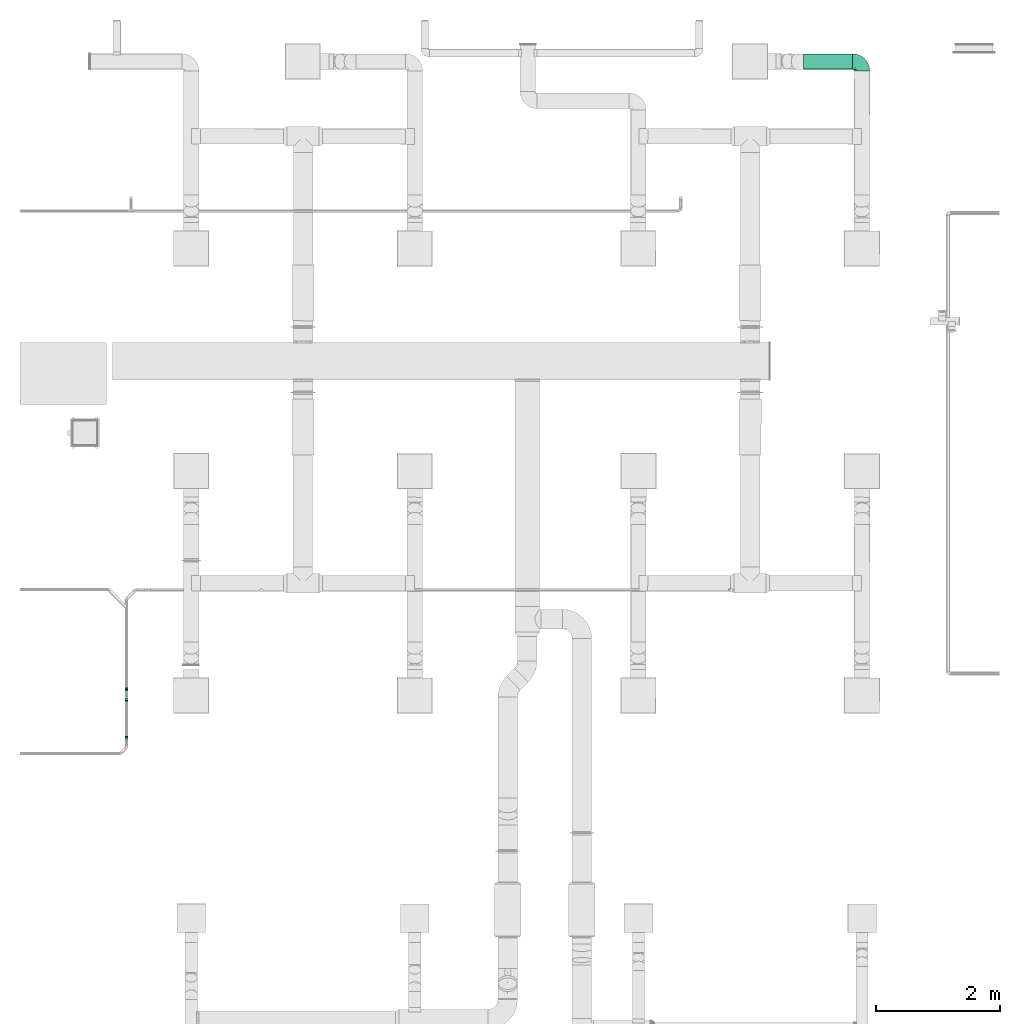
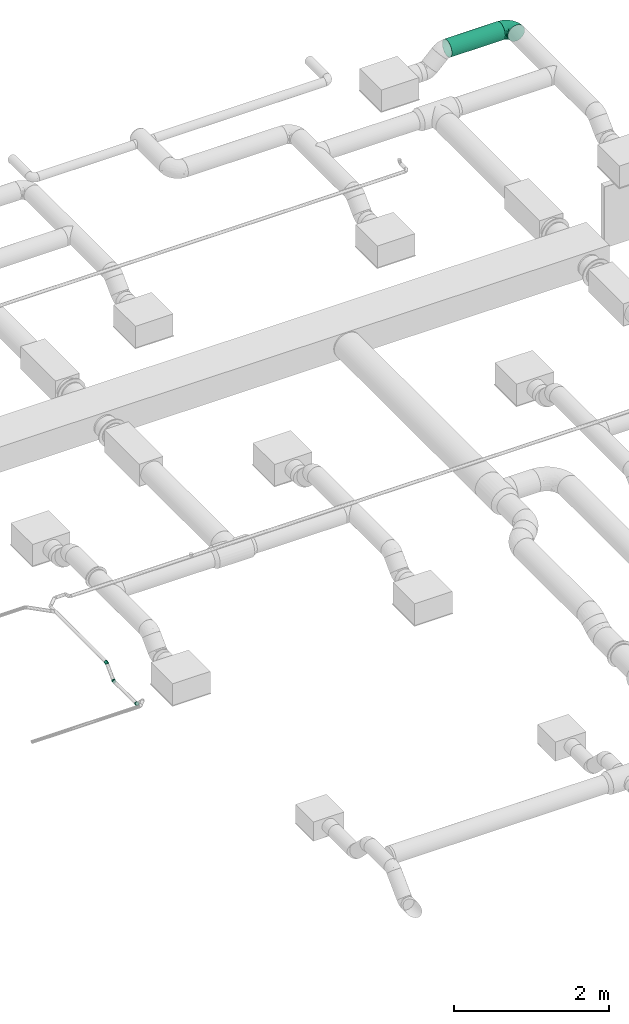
# One storey, part 49 of 63: 4 flow fittings, 1 flow segment.
"""IFC2X3 building model written with IfcOpenShell, lengths in millimetres."""

from ifc_helpers import new_model, entity, si_unit, converted_unit, derived_unit, direction, frame, origin_with_axes, origin_2d_with_axis, place, context, subcontext, project, spatial, hollow_circle, extrude, open_shell, surface_model, source, transform, mapped, type_object, element, save


model = new_model("IFC2X3")

# Units and contexts
model_context = context("Model", 3, precision=0.01, world=frame((0.0, 4.29681676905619e-09, 0.0)), true_north=direction((4.01073788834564e-13, 1.0)))
plan_context = context("Plan", 3, precision=0.01, world=frame((0.0, 4.29681676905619e-09, 0.0)), true_north=direction((4.01073788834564e-13, 1.0)))
body_context = subcontext(model_context, "Body", "Model", "MODEL_VIEW")
ifc_project = project(units=[converted_unit("PLANEANGLEUNIT", "DEGREE", entity("IfcPositiveLengthMeasure", 0.0174532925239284), si_unit("PLANEANGLEUNIT", "RADIAN"), dimensions=[0, 0, 0, 0, 0, 0, 0]), si_unit("AREAUNIT", "SQUARE_METRE"), si_unit("LENGTHUNIT", "METRE", prefix="MILLI"), si_unit("MASSUNIT", "GRAM", prefix="KILO"), si_unit("POWERUNIT", "WATT"), si_unit("PRESSUREUNIT", "PASCAL"), si_unit("FORCEUNIT", "NEWTON", prefix="KILO"), si_unit("ELECTRICVOLTAGEUNIT", "VOLT"), si_unit("ELECTRICCURRENTUNIT", "AMPERE"), si_unit("THERMODYNAMICTEMPERATUREUNIT", "DEGREE_CELSIUS"), si_unit("TIMEUNIT", "SECOND"), si_unit("VOLUMEUNIT", "CUBIC_METRE"), derived_unit("LINEARVELOCITYUNIT", [(si_unit("LENGTHUNIT", "METRE"), 1), (si_unit("TIMEUNIT", "SECOND"), -1)]), derived_unit("VOLUMETRICFLOWRATEUNIT", [(si_unit("VOLUMEUNIT", "CUBIC_METRE"), 1), (si_unit("TIMEUNIT", "SECOND"), -1)]), derived_unit("THERMALTRANSMITTANCEUNIT", [(si_unit("POWERUNIT", "WATT"), 1), (si_unit("THERMODYNAMICTEMPERATUREUNIT", "KELVIN"), -1), (si_unit("AREAUNIT", "SQUARE_METRE"), -1)]), derived_unit("SOUNDPRESSUREUNIT", [(si_unit("PRESSUREUNIT", "PASCAL"), 1)])], contexts=[model_context, plan_context])

# Site, building, storey
site_placement = place(None, frame((0.0, -4.29681676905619e-09, 0.0), z_axis=(0.0, 0.0, 1.0), x_axis=(1.0, 0.0, 0.0)))
site = spatial("IfcSite", under=ifc_project, at=site_placement, CompositionType="ELEMENT")
building_placement = place(site_placement, frame((0.0, 4.29681676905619e-09, 0.0), z_axis=(0.0, 0.0, 1.0), x_axis=(1.0, 0.0, 0.0)))
building = spatial("IfcBuilding", under=site, at=building_placement, Name="mc-building", CompositionType="ELEMENT")
storey_placement = place(building_placement, frame((0.0, 0.0, 210900.0), z_axis=(0.0, 0.0, 1.0), x_axis=(1.0, 0.0, 0.0)))
storey = spatial("IfcBuildingStorey", under=building, at=storey_placement, Name="Nivå F", CompositionType="ELEMENT", Elevation=210900.0)

# Flow fittings
duct_fitting_type_1 = type_object("IfcDuctFittingType", Name="magicirc_elbow_short_001", PredefinedType="BEND")
shared_shape_1 = source(origin_with_axes(), body_context, "Body", "SurfaceModel", [
    surface_model("IfcShellBasedSurfaceModel", [(-150.0972, 0.0, -125.0), (-150.0972, -32.35238, -120.74073), (-150.0972, 32.35238, -120.74073), (-150.0972, 62.5, -108.25318), (-150.0972, 88.38835, -88.38835), (-150.0972, 108.25318, -62.5), (-150.0972, 120.74073, -32.35238), (-150.0972, -62.5, -108.25318), (-150.0972, -88.38835, -88.38835), (-150.0972, -125.0, 0.0), (-150.0972, -108.25318, -62.5), (-150.0972, -120.74073, -32.35238), (-150.0972, 125.0, 0.0), (-150.0972, -120.74073, 32.35238), (-150.0972, 120.74073, 32.35238), (-150.0972, 108.25318, 62.5), (-150.0972, 32.35238, 120.74073), (-150.0972, 62.5, 108.25318), (-150.0972, 88.38835, 88.38835), (-150.0972, -88.38835, 88.38835), (-150.0972, -108.25318, 62.5), (-150.0972, -32.35238, 120.74073), (-150.0972, 0.0, 125.0), (-150.0972, -62.5, 108.25318), (-32.4496, 150.0762, -120.74073), (88.2911, 150.15442, -88.38835), (-0.09722, 150.09716, -125.0), (-108.35038, 150.02704, -62.5), (-62.59721, 150.05667, -108.25318), (124.90275, 150.17813, 0.0), (-88.48555, 150.03991, -88.38835), (120.64348, 150.17537, 32.35238), (32.25515, 150.11812, -120.74073), (62.40276, 150.13765, -108.25318), (108.15593, 150.16728, -62.5), (120.64348, 150.17537, -32.35238), (-120.83793, 150.01895, -32.35238), (-125.0972, 150.0162, 0.0), (-120.83793, 150.01895, 32.35238), (-108.35038, 150.02704, 62.5), (-32.4496, 150.0762, 120.74073), (-88.48555, 150.03991, 88.38835), (-62.59721, 150.05667, 108.25318), (88.2911, 150.15442, 88.38835), (108.15593, 150.16728, 62.5), (62.40276, 150.13765, 108.25318), (-0.09722, 150.09716, 125.0), (32.25515, 150.11812, 120.74073), (24.48072, -24.61637, 78.94283), (-18.52637, -48.37994, 88.73025), (-8.04173, -60.9188, 68.90086), (-112.00358, -117.21453, 35.2862), (-119.04777, -121.94063, 0.0), (25.80274, 108.66495, 121.17359), (-75.90531, -90.32019, 72.94064), (-74.9755, -74.03393, 90.43499), (-106.27674, -83.08286, 89.59373), (-96.42552, -119.71161, 0.0), (-46.55642, 70.62769, 123.46382), (-76.17207, 76.12274, 116.42958), (-69.46241, 48.90508, 123.27651), (-124.59383, -102.85946, 69.13302), (78.61878, -2.68923, 0.0), (85.73849, 13.68132, 25.36666), (70.44199, -10.83075, 22.52189), (-124.87871, -54.07109, 111.94212), (-90.75665, -57.43818, 106.30507), (32.35431, -52.80826, 23.34963), (38.12723, -38.91422, 44.84757), (14.54114, -56.22264, 51.53596), (-95.77227, 131.6642, 83.8949), (-69.85156, 120.82358, 107.00431), (-67.1605, -108.39565, 29.86687), (-70.62181, -111.88072, 0.0), (-44.81811, -104.04983, 0.0), (-59.79111, 94.89723, 116.92077), (-108.64824, -25.87311, 121.1736), (53.99019, 124.9137, 111.94211), (-27.08036, -92.21892, 28.67154), (-115.10022, 7.31748, 124.96185), (9.98579, -70.13676, 26.36082), (23.58015, -61.5042, 0.0), (-29.57142, 7.33727, 119.47275), (-3.48723, -9.53981, 105.7338), (0.94046, 29.15476, 117.21203), (-136.17743, 114.55328, 55.67167), (-123.52228, 95.73345, 87.18474), (-119.15531, 119.07815, 65.83858), (-129.1793, 129.09564, 33.50057), (-137.59252, 128.35207, 0.0), (-121.50333, 69.81401, 106.85083), (-150.0972, 47.42619, 114.49695), (-128.73123, 33.72402, 120.89336), (-13.90256, -76.68971, 50.24663), (103.22985, 91.02413, 59.18345), (90.69766, 74.73169, 71.85315), (96.39576, 49.19099, 45.79181), (-41.19981, 38.30606, 124.8562), (102.77873, 124.66042, 69.13302), (83.014, 106.33053, 89.59373), (-94.09097, 107.97077, 96.06562), (74.91185, 76.58283, 90.06078), (117.14196, 112.07948, 35.2862), (121.86349, 119.12673, 0.0), (-47.41201, -61.19145, 91.80701), (78.85203, 48.15754, 74.22228), (77.05047, 15.93856, 51.80745), (-101.95839, 84.01726, 104.67527), (110.12903, 71.6119, 28.20498), (111.83495, 70.69427, 0.0), (55.50699, 7.45822, 74.75617), (58.16966, -16.80975, 44.43797), (57.37939, 90.79383, 106.30507), (29.9943, 57.40202, 113.43928), (-128.44116, 137.50935, 0.0), (-74.06924, 6.60335, 124.3929), (-33.60209, 127.73099, 120.99306), (-7.2693, 114.2011, 124.96966), (-18.48364, 93.2743, 124.82125), (14.95293, 81.80631, 121.68816), (-109.79492, 132.74994, 65.99086), (-81.60587, -16.36229, 121.36892), (-56.56582, -29.69215, 113.40491), (55.17991, 45.05306, 95.58745), (-54.92296, -96.11384, 51.55022), (-90.95726, -103.28879, 59.18345), (-48.10646, -78.8832, 74.22228), (-26.52317, -29.67388, 104.84215), (-7.24826, 68.85145, 124.1806), (30.73318, 15.67993, 99.80541), (-47.5234, 150.06644, 114.49695), (-107.9819, 38.91719, 121.04325), (-96.21486, 61.68203, 116.01189), (-96.40875, 19.14807, 124.70641), (91.31978, 21.09813, 0.0), (104.02078, 44.8855, 0.0), (98.9339, 37.85964, 21.62483), (119.64912, 96.50304, 0.0), (-21.03898, -91.33342, 0.0), (52.37395, -32.97385, 22.82054), (61.51946, -23.54031, 0.0), (2.74016, -78.61702, 0.0), (44.42014, -44.39138, 0.0), (-38.91182, 106.03196, 121.2378), (-120.86881, 69.77328, -107.00431), (53.99019, 124.9137, -111.94212), (-90.75665, -57.43818, -106.30507), (-124.87871, -54.07109, -111.94212), (-108.64824, -25.87311, -121.1736), (-18.52638, -48.37994, -88.73025), (-8.03696, -60.91434, -68.90243), (-47.40948, -61.19216, -91.80541), (-96.40875, 19.14807, -124.70641), (-74.06924, 6.60335, -124.39289), (-115.10022, 7.31748, -124.96185), (14.95293, 81.80632, -121.68816), (25.80274, 108.66496, -121.17359), (29.9943, 57.40204, -113.43928), (-129.1793, 129.09564, -33.50057), (-95.81344, 123.46023, -87.18474), (-84.08329, 101.90395, -104.67527), (-108.0317, 94.02101, -96.06562), (32.25687, -52.81312, -23.671), (-131.72621, 95.68696, -83.8949), (-132.82104, 109.70891, -65.99086), (-107.9819, 38.91719, -121.04325), (-128.73123, 33.72402, -120.89336), (-119.15531, 119.07815, -65.83858), (-112.00358, -117.21453, -35.2862), (-48.13899, 68.74808, -123.44965), (-7.24825, 68.85145, -124.1806), (-41.1998, 38.30605, -124.8562), (-76.17207, 76.12273, -116.42958), (-69.73196, 48.70616, -123.27446), (-95.4407, 59.83965, -116.78539), (-106.27674, -83.08286, -89.59373), (-3.48723, -9.53981, -105.7338), (24.48071, -24.61638, -78.94283), (-54.96876, -96.13781, -51.5373), (-75.90865, -90.31901, -72.94357), (-48.10646, -78.8832, -74.22228), (-124.59383, -102.85946, -69.13302), (30.73321, 15.67994, -99.8054), (0.94047, 29.15476, -117.21203), (-69.8927, 121.45808, -106.85084), (9.98579, -70.13676, -26.36082), (-27.10304, -92.21056, -28.74666), (78.85202, 48.15754, -74.22228), (96.06185, 52.26961, -49.3405), (80.70715, 17.60403, -46.36915), (38.10426, -38.85096, -45.00602), (58.16966, -16.80975, -44.43797), (-114.64147, 136.10321, -55.67167), (117.14196, 112.07948, -35.2862), (-7.26929, 114.20109, -124.96966), (14.54114, -56.22264, -51.53596), (-33.60209, 127.73099, -120.99306), (-47.5234, 150.06644, -114.49695), (70.34745, -10.98779, -22.43325), (52.24644, -33.0901, -22.90982), (83.014, 106.33053, -89.59373), (102.77873, 124.66042, -69.13302), (98.79163, 38.49279, -23.73425), (57.37938, 90.79383, -106.30507), (-67.1605, -108.39565, -29.86687), (89.97016, 76.8113, -73.6808), (73.63523, 74.44149, -90.5745), (-29.5714, 7.33728, -119.47275), (-56.56581, -29.69215, -113.40491), (-74.97313, -74.0325, -90.43556), (-90.95726, -103.28879, -59.18345), (-81.60587, -16.36229, -121.36892), (-26.52317, -29.67387, -104.84215), (103.22985, 91.02413, -59.18345), (-18.48364, 93.27429, -124.82125), (-38.91182, 106.03195, -121.2378), (55.17991, 45.0531, -95.58746), (-150.0972, 47.42619, -114.49695), (59.07403, 10.32862, -72.93382), (-61.74434, 96.17487, -116.01189), (109.61114, 70.30666, -28.70043), (-13.85205, -76.66939, -50.22706), (86.00494, 12.83, -21.95696)], [open_shell([[[0, 1, 2]], [[3, 2, 4]], [[1, 5, 2]], [[4, 2, 5]], [[5, 1, 6]], [[7, 8, 1]], [[9, 1, 8]], [[10, 11, 8]], [[9, 8, 11]], [[9, 6, 1]], [[9, 12, 6]], [[12, 13, 14]], [[15, 14, 16]], [[16, 17, 18]], [[15, 16, 18]], [[16, 14, 19]], [[20, 19, 13]], [[19, 14, 13]], [[21, 22, 23]], [[19, 23, 22]], [[19, 22, 16]], [[9, 13, 12]], [[24, 25, 26]], [[27, 24, 28]], [[29, 24, 27]], [[27, 28, 30]], [[31, 29, 27]], [[32, 25, 33]], [[32, 26, 25]], [[34, 29, 35]], [[29, 34, 25]], [[24, 29, 25]], [[27, 36, 31]], [[37, 38, 39]], [[37, 39, 40]], [[41, 42, 40]], [[41, 40, 39]], [[40, 43, 36]], [[31, 43, 44]], [[36, 43, 31]], [[45, 46, 47]], [[46, 45, 43]], [[40, 46, 43]], [[36, 37, 40]], [[48, 49, 50]], [[51, 13, 52]], [[53, 47, 46]], [[54, 55, 56]], [[52, 57, 51]], [[58, 59, 60]], [[20, 61, 19]], [[62, 63, 64]], [[65, 56, 66]], [[67, 68, 69]], [[41, 70, 71]], [[72, 73, 74]], [[59, 58, 75]], [[21, 76, 22]], [[77, 45, 47]], [[23, 19, 56]], [[72, 74, 78]], [[79, 16, 22]], [[76, 21, 65]], [[80, 81, 67]], [[82, 83, 84]], [[85, 86, 87]], [[88, 12, 14]], [[12, 88, 89]], [[18, 17, 90]], [[51, 20, 13]], [[18, 90, 86]], [[17, 91, 92]], [[85, 14, 15]], [[92, 91, 16]], [[80, 93, 78]], [[39, 70, 41]], [[94, 95, 96]], [[84, 97, 82]], [[44, 43, 98]], [[99, 43, 45]], [[87, 86, 100]], [[101, 95, 99]], [[102, 103, 31]], [[66, 55, 104]], [[77, 99, 45]], [[102, 31, 44]], [[96, 105, 106]], [[86, 15, 18]], [[107, 86, 90]], [[86, 85, 15]], [[102, 108, 109]], [[110, 48, 111]], [[112, 53, 113]], [[89, 88, 114]], [[60, 115, 97]], [[114, 88, 37]], [[86, 107, 100]], [[38, 37, 88]], [[71, 116, 42]], [[117, 118, 119]], [[120, 38, 88]], [[70, 120, 100]], [[121, 76, 122]], [[112, 113, 123]], [[117, 53, 46]], [[42, 41, 71]], [[77, 53, 112]], [[72, 78, 124]], [[54, 125, 124]], [[21, 23, 65]], [[122, 76, 66]], [[61, 56, 19]], [[76, 121, 79]], [[126, 104, 55]], [[122, 127, 82]], [[101, 99, 112]], [[98, 99, 94]], [[46, 40, 117]], [[113, 53, 119]], [[128, 84, 113]], [[113, 84, 129]], [[75, 100, 59]], [[116, 40, 130]], [[105, 110, 106]], [[123, 110, 105]], [[131, 90, 17]], [[107, 132, 59]], [[117, 40, 116]], [[117, 116, 118]], [[51, 57, 73]], [[61, 51, 125]], [[98, 102, 44]], [[108, 94, 96]], [[76, 79, 22]], [[133, 79, 115]], [[84, 128, 97]], [[129, 84, 83]], [[128, 118, 58]], [[59, 132, 60]], [[129, 83, 48]], [[123, 113, 129]], [[49, 48, 83]], [[48, 69, 68]], [[127, 49, 83]], [[126, 93, 50]], [[110, 123, 129]], [[123, 105, 101]], [[48, 110, 129]], [[110, 111, 106]], [[97, 115, 82]], [[122, 82, 115]], [[63, 96, 106]], [[134, 135, 136]], [[63, 62, 134]], [[96, 136, 108]], [[109, 137, 102]], [[102, 94, 108]], [[78, 74, 138]], [[73, 72, 51]], [[51, 72, 125]], [[68, 67, 139]], [[72, 124, 125]], [[93, 124, 78]], [[54, 124, 126]], [[64, 63, 106]], [[63, 134, 136]], [[64, 106, 111]], [[108, 136, 135]], [[63, 136, 96]], [[139, 64, 111]], [[139, 140, 64]], [[111, 68, 139]], [[80, 141, 81]], [[80, 78, 141]], [[139, 67, 142]], [[80, 69, 93]], [[50, 93, 69]], [[124, 93, 126]], [[48, 68, 111]], [[67, 69, 80]], [[140, 139, 142]], [[140, 62, 64]], [[142, 67, 81]], [[55, 54, 126]], [[56, 125, 54]], [[126, 50, 104]], [[56, 55, 66]], [[127, 104, 49]], [[66, 104, 122]], [[48, 50, 69]], [[50, 49, 104]], [[132, 107, 90]], [[100, 107, 59]], [[90, 131, 132]], [[60, 97, 58]], [[132, 131, 60]], [[60, 131, 133]], [[128, 58, 97]], [[75, 58, 143]], [[143, 71, 75]], [[100, 75, 71]], [[120, 70, 39]], [[71, 70, 100]], [[38, 120, 39]], [[100, 120, 87]], [[85, 88, 14]], [[120, 88, 87]], [[13, 9, 52]], [[103, 102, 137]], [[103, 29, 31]], [[88, 85, 87]], [[51, 61, 20]], [[56, 61, 125]], [[56, 65, 23]], [[76, 65, 66]], [[99, 98, 43]], [[102, 98, 94]], [[53, 77, 47]], [[99, 77, 112]], [[116, 71, 143]], [[42, 116, 130]], [[116, 143, 118]], [[79, 133, 92]], [[79, 92, 16]], [[17, 92, 131]], [[122, 115, 121]], [[79, 121, 115]], [[123, 101, 112]], [[95, 101, 105]], [[96, 95, 105]], [[99, 95, 94]], [[117, 119, 53]], [[128, 113, 119]], [[58, 118, 143]], [[119, 118, 128]], [[60, 133, 115]], [[92, 133, 131]], [[82, 127, 83]], [[104, 127, 122]], [[108, 135, 109]], [[138, 141, 78]], [[4, 144, 3]], [[32, 33, 145]], [[146, 147, 148]], [[149, 150, 151]], [[152, 153, 154]], [[155, 156, 157]], [[89, 158, 12]], [[159, 160, 161]], [[158, 6, 12]], [[162, 142, 81]], [[161, 163, 164]], [[3, 165, 166]], [[167, 159, 161]], [[158, 164, 6]], [[10, 168, 11]], [[169, 170, 171]], [[168, 52, 11]], [[172, 173, 174]], [[7, 147, 175]], [[176, 177, 149]], [[178, 179, 180]], [[148, 1, 0]], [[35, 29, 103]], [[10, 8, 181]], [[182, 176, 183]], [[160, 159, 184]], [[185, 141, 186]], [[8, 7, 175]], [[187, 188, 189]], [[190, 177, 191]], [[158, 89, 114]], [[154, 148, 0]], [[37, 36, 158]], [[173, 172, 169]], [[192, 36, 27]], [[193, 34, 35]], [[4, 163, 144]], [[192, 159, 167]], [[24, 26, 194]], [[147, 7, 1]], [[154, 0, 2]], [[156, 194, 26]], [[195, 190, 162]], [[196, 197, 24]], [[198, 199, 191]], [[184, 159, 30]], [[159, 27, 30]], [[200, 33, 25]], [[34, 201, 25]], [[135, 134, 202]], [[183, 171, 170]], [[198, 191, 189]], [[32, 145, 156]], [[200, 203, 145]], [[202, 189, 188]], [[204, 74, 73]], [[103, 137, 193]], [[35, 103, 193]], [[30, 28, 184]], [[204, 178, 186]], [[32, 156, 26]], [[200, 205, 206]], [[207, 183, 176]], [[146, 148, 208]], [[179, 209, 180]], [[37, 158, 114]], [[181, 175, 210]], [[5, 163, 4]], [[208, 211, 153]], [[207, 208, 153]], [[212, 176, 149]], [[201, 200, 25]], [[205, 200, 213]], [[157, 156, 203]], [[214, 215, 196]], [[203, 206, 216]], [[183, 170, 157]], [[174, 161, 172]], [[166, 2, 217]], [[182, 177, 176]], [[189, 191, 218]], [[184, 28, 196]], [[160, 219, 172]], [[194, 156, 155]], [[28, 197, 196]], [[181, 168, 10]], [[168, 73, 57]], [[193, 109, 220]], [[201, 193, 213]], [[2, 166, 154]], [[154, 153, 211]], [[182, 183, 157]], [[183, 207, 171]], [[153, 152, 173]], [[172, 219, 169]], [[157, 216, 182]], [[216, 187, 218]], [[177, 182, 218]], [[195, 221, 150]], [[150, 177, 195]], [[209, 151, 180]], [[203, 216, 157]], [[187, 189, 218]], [[177, 218, 191]], [[182, 216, 218]], [[205, 188, 187]], [[189, 222, 198]], [[220, 188, 213]], [[135, 202, 220]], [[213, 193, 220]], [[202, 134, 222]], [[62, 222, 134]], [[220, 202, 188]], [[222, 62, 198]], [[202, 222, 189]], [[199, 140, 142]], [[140, 199, 198]], [[195, 162, 185]], [[190, 191, 199]], [[186, 141, 138]], [[185, 81, 141]], [[185, 186, 221]], [[74, 204, 186]], [[185, 221, 195]], [[178, 221, 186]], [[180, 151, 150]], [[190, 199, 162]], [[177, 190, 195]], [[198, 62, 140]], [[142, 162, 199]], [[81, 185, 162]], [[207, 176, 212]], [[153, 171, 207]], [[204, 168, 210]], [[168, 204, 73]], [[204, 210, 178]], [[179, 178, 210]], [[221, 178, 180]], [[210, 175, 179]], [[209, 175, 146]], [[175, 209, 179]], [[146, 208, 151]], [[146, 151, 209]], [[212, 151, 208]], [[180, 150, 221]], [[177, 150, 149]], [[219, 160, 184]], [[161, 160, 172]], [[184, 215, 219]], [[169, 171, 173]], [[219, 215, 169]], [[169, 215, 214]], [[153, 173, 171]], [[174, 165, 144]], [[165, 174, 173]], [[161, 174, 144]], [[164, 163, 5]], [[144, 163, 161]], [[6, 164, 5]], [[161, 164, 167]], [[192, 158, 36]], [[164, 158, 167]], [[52, 168, 57]], [[52, 9, 11]], [[159, 192, 27]], [[158, 192, 167]], [[175, 181, 8]], [[168, 181, 210]], [[148, 147, 1]], [[175, 147, 146]], [[193, 201, 34]], [[200, 201, 213]], [[200, 145, 33]], [[156, 145, 203]], [[194, 214, 196]], [[194, 196, 24]], [[196, 215, 184]], [[165, 3, 144]], [[3, 166, 217]], [[166, 165, 152]], [[208, 148, 211]], [[154, 211, 148]], [[188, 205, 213]], [[206, 205, 187]], [[216, 206, 187]], [[200, 206, 203]], [[157, 170, 155]], [[155, 170, 214]], [[155, 214, 194]], [[169, 214, 170]], [[166, 152, 154]], [[173, 152, 165]], [[151, 212, 149]], [[207, 212, 208]], [[109, 193, 137]], [[109, 135, 220]], [[138, 74, 186]]])]),
])
flow_fitting_placement = place(storey_placement, frame((534105.36782, 460995.43816, 4200.0), z_axis=(0.0, 0.0, 1.0), x_axis=(0.000647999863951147, 0.999999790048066, 0.0)))
element("IfcFlowFitting", 1, at=flow_fitting_placement, inside=storey, type_object=duct_fitting_type_1, Name="magicirc_elbow_short_001", context=body_context, shape_type="MappedRepresentation", body=[
    mapped(shared_shape_1, transform((0.0, 0.0, 0.0), scale=1.0)),
])
duct_fitting_type_2 = type_object("IfcDuctFittingType", Name="magicirc_elbow_full_radius_001", PredefinedType="BEND")
shared_shape_2 = source(origin_with_axes(), body_context, "Body", "SurfaceModel", [
    surface_model("IfcShellBasedSurfaceModel", [(-20.71068, 6.47048, -24.14815), (-20.71068, 0.0, -25.0), (-20.71068, 24.14815, -6.47048), (-20.71068, 12.5, -21.65064), (-20.71068, 21.65064, -12.5), (-20.71068, 17.67767, -17.67767), (-20.71068, -17.67767, -17.67767), (-20.71068, -12.5, -21.65064), (-20.71068, -6.47048, -24.14815), (-20.71068, -21.65064, -12.5), (-20.71068, -24.14815, -6.47048), (-20.71068, -12.5, 21.65064), (-20.71068, -25.0, 0.0), (-20.71068, -24.14815, 6.47048), (-20.71068, 24.14815, 6.47048), (-20.71068, 25.0, 0.0), (-20.71068, 6.47048, 24.14815), (-20.71068, 21.65064, 12.5), (-20.71068, 17.67767, 17.67767), (-20.71068, 12.5, 21.65064), (-20.71068, -21.65064, 12.5), (-20.71068, -17.67767, 17.67767), (-20.71068, -6.47048, 24.14815), (-20.71068, 0.0, 25.0), (-2.43066, 31.71998, -6.47048), (14.64466, 14.64466, -25.0), (10.06934, 19.21998, -24.14815), (5.80583, 23.4835, -21.65064), (2.14466, 27.14466, -17.67767), (-0.66465, 29.95397, -12.5), (31.71998, -2.43066, -6.47048), (19.21998, 10.06934, -24.14815), (27.14466, 2.14466, -17.67767), (23.4835, 5.80583, -21.65064), (29.95397, -0.66465, -12.5), (31.71998, -2.43066, 6.47048), (32.32233, -3.03301, 0.0), (-3.03301, 32.32233, 0.0), (-2.43066, 31.71998, 6.47048), (23.4835, 5.80583, 21.65064), (10.06934, 19.21998, 24.14815), (-0.66465, 29.95397, 12.5), (2.14466, 27.14466, 17.67767), (5.80583, 23.4835, 21.65064), (27.14466, 2.14466, 17.67767), (29.95397, -0.66465, 12.5), (19.21998, 10.06934, 24.14815), (14.64466, 14.64466, 25.0), (-9.90594, -9.16729, 22.84872), (-5.53086, -14.12942, 19.29098), (2.56694, -6.19714, 22.53372), (-8.0728, -19.12027, 14.63846), (19.2284, -7.81174, 14.63846), (-7.46138, -2.40706, 24.66879), (-9.60579, 10.40318, 23.37148), (-2.37784, 5.74061, 24.91215), (-12.52615, 3.46428, 24.84829), (0.74206, 15.02947, 23.33394), (4.51942, 11.83388, 24.63638), (6.36735, -15.37213, 13.93174), (13.48681, 0.5223, 22.84872), (-10.29888, 24.86369, 10.27108), (-11.02493, 20.96619, 15.77668), (-7.1013, 17.14405, 20.41013), (2.15218, -21.0168, 4.41941), (11.42886, -17.32864, 4.41941), (7.39264, -17.84741, 8.69962), (-6.36005, -22.14548, 0.0), (-7.04491, -23.31893, 4.55451), (24.09339, -9.5634, 4.80838), (18.46353, -12.1242, 8.68186), (-10.01361, 26.7882, 5.2528), (-4.48258, -21.62879, 8.68186), (6.97804, 3.57394, 24.66879), (13.90192, -6.0801, 19.29098), (7.99058, -19.29096, 0.0), (20.15645, -11.16199, 0.0), (-11.14359, 26.90301, 0.0), (4.1962, -10.13052, 19.93611), (-7.46138, -2.40706, -24.66879), (13.33931, -16.38294, -4.41941), (4.17178, -20.33463, -4.41941), (7.39264, -17.84741, -8.69961), (6.97804, 3.57394, -24.66879), (-11.15216, 10.10272, -23.33394), (-11.56353, 5.1721, -24.63638), (-7.02953, 22.62114, -15.77668), (13.90192, -6.0801, -19.29098), (-10.29888, 24.86369, -10.27108), (18.46353, -12.1242, -8.68186), (-11.86143, 26.02281, -5.2528), (-0.56384, 14.14848, -23.37148), (-10.27426, -23.79894, -4.80838), (-4.48258, -21.62879, -8.68186), (6.36735, -15.37213, -13.93174), (19.2284, -7.81174, -14.63846), (-8.0728, -19.12027, -14.63846), (-5.53086, -14.12942, -19.29098), (4.1962, -10.13052, -19.93611), (-9.90594, -9.16729, -22.84872), (2.56694, -6.19714, -22.53372), (13.48681, 0.5223, -22.84872), (-2.37784, 5.74061, -24.91215), (-7.1013, 17.14405, -20.41013), (21.47048, -11.50747, -4.55451), (6.40771, 11.30694, -24.84829)], [open_shell([[[0, 1, 2]], [[3, 0, 2]], [[2, 4, 5]], [[3, 2, 5]], [[6, 2, 1]], [[7, 6, 8]], [[6, 1, 8]], [[9, 10, 6]], [[11, 6, 10]], [[10, 12, 13]], [[2, 6, 11]], [[14, 15, 16]], [[17, 14, 18]], [[14, 16, 19]], [[18, 14, 19]], [[11, 16, 15]], [[20, 21, 13]], [[11, 13, 21]], [[10, 13, 11]], [[11, 22, 16]], [[22, 23, 16]], [[15, 2, 11]], [[24, 25, 26]], [[24, 26, 27]], [[28, 29, 24]], [[28, 24, 27]], [[25, 24, 30]], [[31, 32, 33]], [[31, 25, 32]], [[32, 30, 34]], [[25, 30, 32]], [[30, 35, 36]], [[30, 24, 37]], [[38, 39, 37]], [[40, 38, 41]], [[42, 43, 40]], [[42, 40, 41]], [[39, 38, 40]], [[35, 44, 45]], [[35, 30, 44]], [[44, 30, 39]], [[40, 46, 39]], [[40, 47, 46]], [[39, 30, 37]], [[48, 49, 50]], [[21, 51, 49]], [[11, 21, 49]], [[45, 44, 52]], [[23, 22, 53]], [[22, 11, 48]], [[19, 16, 54]], [[55, 56, 53]], [[23, 56, 16]], [[40, 57, 58]], [[49, 51, 59]], [[39, 46, 60]], [[61, 17, 62]], [[63, 18, 19]], [[64, 65, 66]], [[67, 64, 68]], [[69, 35, 70]], [[61, 71, 14]], [[20, 13, 72]], [[15, 14, 71]], [[14, 17, 61]], [[21, 20, 51]], [[54, 63, 19]], [[72, 66, 59]], [[12, 67, 68]], [[43, 42, 63]], [[47, 58, 73]], [[44, 39, 74]], [[41, 38, 61]], [[73, 46, 47]], [[64, 67, 75]], [[44, 74, 52]], [[55, 58, 57]], [[74, 39, 60]], [[20, 72, 51]], [[76, 69, 65]], [[35, 69, 36]], [[56, 54, 16]], [[71, 61, 38]], [[77, 71, 37]], [[52, 59, 70]], [[49, 78, 50]], [[50, 73, 53]], [[40, 43, 57]], [[50, 60, 73]], [[61, 62, 41]], [[55, 53, 73]], [[42, 41, 62]], [[63, 54, 57]], [[48, 53, 22]], [[17, 18, 62]], [[35, 45, 70]], [[59, 51, 72]], [[78, 59, 74]], [[59, 52, 74]], [[70, 45, 52]], [[18, 63, 62]], [[42, 62, 63]], [[63, 57, 43]], [[55, 57, 54]], [[49, 48, 11]], [[53, 48, 50]], [[73, 60, 46]], [[74, 60, 50]], [[73, 58, 55]], [[47, 40, 58]], [[53, 56, 23]], [[54, 56, 55]], [[64, 66, 72]], [[70, 59, 66]], [[64, 72, 68]], [[65, 64, 75]], [[76, 65, 75]], [[70, 66, 65]], [[72, 13, 68]], [[12, 68, 13]], [[59, 78, 49]], [[74, 50, 78]], [[37, 71, 38]], [[71, 77, 15]], [[65, 69, 70]], [[36, 69, 76]], [[8, 1, 79]], [[80, 81, 82]], [[25, 31, 83]], [[84, 85, 0]], [[4, 86, 5]], [[33, 32, 87]], [[88, 86, 4]], [[34, 30, 89]], [[2, 90, 88]], [[27, 26, 91]], [[92, 10, 93]], [[3, 84, 0]], [[67, 92, 81]], [[94, 95, 89]], [[10, 92, 12]], [[96, 6, 97]], [[6, 7, 97]], [[98, 94, 97]], [[10, 9, 93]], [[6, 96, 9]], [[99, 7, 8]], [[96, 94, 93]], [[100, 79, 83]], [[101, 83, 31]], [[15, 77, 90]], [[80, 76, 75]], [[37, 24, 90]], [[102, 83, 79]], [[28, 27, 103]], [[88, 4, 2]], [[29, 86, 88]], [[99, 97, 7]], [[91, 103, 27]], [[85, 79, 1]], [[103, 91, 84]], [[5, 103, 3]], [[76, 80, 104]], [[25, 105, 26]], [[101, 31, 33]], [[89, 82, 94]], [[32, 34, 95]], [[87, 100, 101]], [[87, 95, 94]], [[100, 99, 79]], [[36, 76, 104]], [[29, 28, 86]], [[105, 91, 26]], [[95, 87, 32]], [[87, 98, 100]], [[105, 83, 102]], [[102, 85, 84]], [[24, 88, 90]], [[34, 89, 95]], [[24, 29, 88]], [[94, 96, 97]], [[93, 9, 96]], [[28, 103, 86]], [[5, 86, 103]], [[103, 84, 3]], [[102, 84, 91]], [[79, 99, 8]], [[97, 99, 100]], [[87, 101, 33]], [[83, 101, 100]], [[79, 85, 102]], [[1, 0, 85]], [[83, 105, 25]], [[91, 105, 102]], [[80, 82, 89]], [[93, 94, 82]], [[80, 89, 104]], [[81, 80, 75]], [[67, 81, 75]], [[93, 82, 81]], [[89, 30, 104]], [[36, 104, 30]], [[94, 98, 87]], [[97, 100, 98]], [[15, 90, 2]], [[90, 77, 37]], [[81, 92, 93]], [[12, 92, 67]]])]),
])
for number, where, z_axis, x_axis, name in (
    (2, (522260.0, 450889.84316, 4480.0), (1.0, 0.0, 0.0), (0.0, -1.0, 0.0), "magicirc_elbow_full_radius_001"),
    (3, (522260.0, 450709.53093, 4299.68776999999), (-1.0, 0.0, 0.0), (0.0, -0.707106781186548, -0.707106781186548), "magicirc_elbow_full_radius_001"),
    (4, (522260.0, 450109.53093, 4299.68776999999), (-1.0, 0.0, 0.0), (0.0, -1.0, 0.0), "magicirc_elbow_full_radius_001"),
):
    element("IfcFlowFitting", number, at=place(storey_placement, frame(where, z_axis=z_axis, x_axis=x_axis)), inside=storey, type_object=duct_fitting_type_2, Name=name, context=body_context, shape_type="MappedRepresentation", body=[
        mapped(shared_shape_2, transform((0.0, 0.0, 0.0), scale=1.0)),
    ])

# Flow segment
duct_segment_type = type_object("IfcDuctSegmentType", Name="KK002T - Spiro kanaler, Forsinket stål, korte bend", PredefinedType="RIGIDSEGMENT")
shared_shape_3 = source(origin_with_axes(), body_context, "Body", "SweptSolid", [
    extrude(hollow_circle(Radius=125.0, WallThickness=2.0, at=origin_2d_with_axis()), frame((0.0, 0.0, 0.0), z_axis=(1.0, 0.0, 0.0), x_axis=(0.0, 1.0, 0.0)), (0.0, 0.0, 1.0), 793.8),
])
flow_segment_placement = place(storey_placement, frame((533161.46599, 460995.43816, 4200.0), z_axis=(0.0, 0.0, 1.0), x_axis=(1.0, 0.0, 0.0)))
element("IfcFlowSegment", 5, at=flow_segment_placement, inside=storey, type_object=duct_segment_type, Name="KK002T - Spiro kanaler, Forsinket stål, korte bend", context=body_context, shape_type="MappedRepresentation", body=[
    mapped(shared_shape_3, transform((0.0, 0.0, 0.0), scale=1.0)),
])

save(model, "model.ifc")
